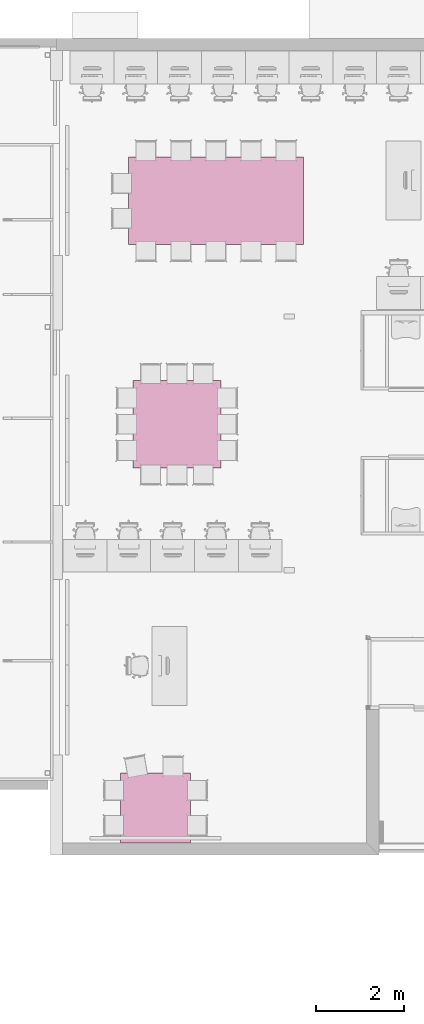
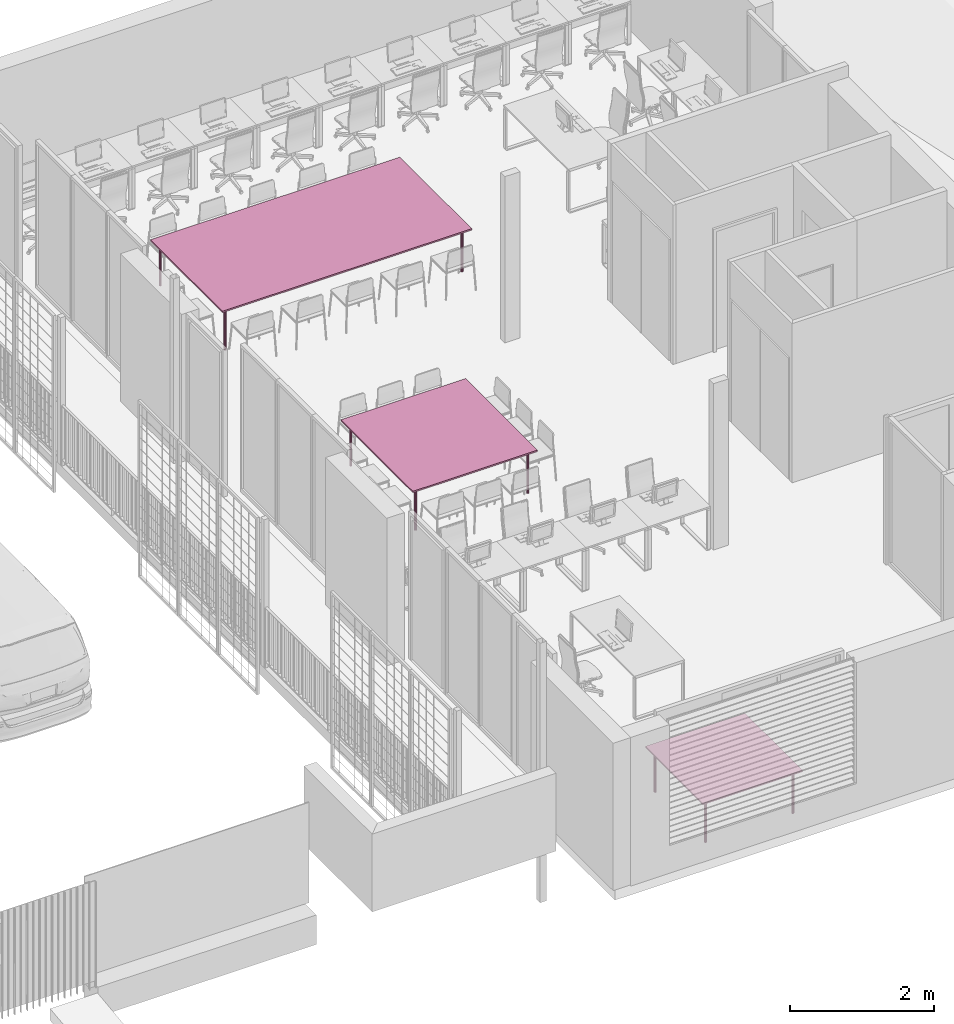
# One storey, part 34 of 51: 3 furnishings.
"""IFC2X3 building model written with IfcOpenShell, lengths in metres."""

from ifc_helpers import new_model, entity, si_unit, converted_unit, derived_unit, direction, frame, frame_2d, origin, origin_2d_with_axis, place, context, subcontext, project, spatial, polyline, rectangle, outline, extrude, source, transform, mapped, material, type_object, type_shapes, element, save


model = new_model("IFC2X3")

# Units and contexts
model_context = context("Model", 3, precision=1e-05, world=origin(), true_north=direction((6.123031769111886e-17, 1.0)))
body_context = subcontext(model_context, "Body", "Model", "MODEL_VIEW")
ifc_project = project(units=[si_unit("LENGTHUNIT", "METRE"), si_unit("AREAUNIT", "SQUARE_METRE"), si_unit("VOLUMEUNIT", "CUBIC_METRE"), converted_unit("PLANEANGLEUNIT", "DEGREE", entity("IfcRatioMeasure", 0.017453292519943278), si_unit("PLANEANGLEUNIT", "RADIAN"), dimensions=[0, 0, 0, 0, 0, 0, 0]), si_unit("MASSUNIT", "GRAM", prefix="KILO"), derived_unit("MASSDENSITYUNIT", [(si_unit("MASSUNIT", "GRAM", prefix="KILO"), 1), (si_unit("LENGTHUNIT", "METRE"), -3)]), derived_unit("MOMENTOFINERTIAUNIT", [(si_unit("LENGTHUNIT", "METRE"), 4)]), si_unit("TIMEUNIT", "SECOND"), si_unit("FREQUENCYUNIT", "HERTZ"), si_unit("THERMODYNAMICTEMPERATUREUNIT", "DEGREE_CELSIUS"), derived_unit("THERMALTRANSMITTANCEUNIT", [(si_unit("MASSUNIT", "GRAM", prefix="KILO"), 1), (si_unit("THERMODYNAMICTEMPERATUREUNIT", "KELVIN"), -1), (si_unit("TIMEUNIT", "SECOND"), -3)]), derived_unit("THERMALCONDUCTANCEUNIT", [(si_unit("MASSUNIT", "GRAM", prefix="KILO"), 1), (si_unit("LENGTHUNIT", "METRE"), 1), (si_unit("THERMODYNAMICTEMPERATUREUNIT", "KELVIN"), -1), (si_unit("TIMEUNIT", "SECOND"), -3)]), derived_unit("VOLUMETRICFLOWRATEUNIT", [(si_unit("LENGTHUNIT", "METRE"), 3), (si_unit("TIMEUNIT", "SECOND"), -1)]), derived_unit("MASSFLOWRATEUNIT", [(si_unit("MASSUNIT", "GRAM", prefix="KILO"), 1), (si_unit("TIMEUNIT", "SECOND"), -1)]), derived_unit("ROTATIONALFREQUENCYUNIT", [(si_unit("TIMEUNIT", "SECOND"), -1)]), si_unit("ELECTRICCURRENTUNIT", "AMPERE"), si_unit("ELECTRICVOLTAGEUNIT", "VOLT"), si_unit("POWERUNIT", "WATT"), si_unit("FORCEUNIT", "NEWTON", prefix="KILO"), si_unit("ILLUMINANCEUNIT", "LUX"), si_unit("LUMINOUSFLUXUNIT", "LUMEN"), si_unit("LUMINOUSINTENSITYUNIT", "CANDELA"), derived_unit("USERDEFINED", [(si_unit("MASSUNIT", "GRAM", prefix="KILO"), -1), (si_unit("LENGTHUNIT", "METRE"), -2), (si_unit("TIMEUNIT", "SECOND"), 3), (si_unit("LUMINOUSFLUXUNIT", "LUMEN"), 1)]), derived_unit("USERDEFINED", [(si_unit("MASSUNIT", "GRAM", prefix="KILO"), 1), (si_unit("LENGTHUNIT", "METRE"), 3), (si_unit("TIMEUNIT", "SECOND"), -3), (si_unit("ELECTRICCURRENTUNIT", "AMPERE"), -2)]), derived_unit("USERDEFINED", [(si_unit("LENGTHUNIT", "METRE"), 2), (si_unit("TIMEUNIT", "SECOND"), -2)]), derived_unit("SOUNDPOWERUNIT", [(si_unit("MASSUNIT", "GRAM", prefix="KILO"), 1), (si_unit("LENGTHUNIT", "METRE"), 2), (si_unit("TIMEUNIT", "SECOND"), -3)]), derived_unit("SOUNDPRESSUREUNIT", [(si_unit("MASSUNIT", "GRAM", prefix="KILO"), 1), (si_unit("LENGTHUNIT", "METRE"), -1), (si_unit("TIMEUNIT", "SECOND"), -2)]), derived_unit("LINEARVELOCITYUNIT", [(si_unit("LENGTHUNIT", "METRE"), 1), (si_unit("TIMEUNIT", "SECOND"), -1)]), si_unit("PRESSUREUNIT", "PASCAL"), derived_unit("USERDEFINED", [(si_unit("LENGTHUNIT", "METRE"), -2), (si_unit("MASSUNIT", "GRAM", prefix="KILO"), 1), (si_unit("TIMEUNIT", "SECOND"), -2)]), derived_unit("LINEARFORCEUNIT", [(si_unit("MASSUNIT", "GRAM", prefix="KILO"), 1), (si_unit("LENGTHUNIT", "METRE"), 1), (si_unit("TIMEUNIT", "SECOND"), -2), (si_unit("LENGTHUNIT", "METRE"), -1)]), derived_unit("PLANARFORCEUNIT", [(si_unit("MASSUNIT", "GRAM", prefix="KILO"), 1), (si_unit("LENGTHUNIT", "METRE"), 1), (si_unit("TIMEUNIT", "SECOND"), -2), (si_unit("LENGTHUNIT", "METRE"), -2)]), derived_unit("SPECIFICHEATCAPACITYUNIT", [(si_unit("LENGTHUNIT", "METRE"), 2), (si_unit("TIMEUNIT", "SECOND"), -2), (si_unit("THERMODYNAMICTEMPERATUREUNIT", "KELVIN"), -1)]), derived_unit("VAPORPERMEABILITYUNIT", [(si_unit("TIMEUNIT", "SECOND"), 1), (si_unit("LENGTHUNIT", "METRE"), -1)]), derived_unit("DYNAMICVISCOSITYUNIT", [(si_unit("MASSUNIT", "GRAM", prefix="KILO"), 1), (si_unit("LENGTHUNIT", "METRE"), -1), (si_unit("TIMEUNIT", "SECOND"), -1)]), derived_unit("THERMALEXPANSIONCOEFFICIENTUNIT", [(si_unit("THERMODYNAMICTEMPERATUREUNIT", "KELVIN"), -1)])], contexts=[model_context])

# Site, building, storey
site_placement = place(None, origin())
site = spatial("IfcSite", under=ifc_project, at=site_placement, Name="Default", CompositionType="ELEMENT")
building_placement = place(site_placement, origin())
building = spatial("IfcBuilding", under=site, at=building_placement, CompositionType="ELEMENT")
storey_placement = place(building_placement, frame((0.0, 0.0, 3.06)))
storey = spatial("IfcBuildingStorey", under=building, at=storey_placement, Name="ÉTAGE", CompositionType="ELEMENT", Elevation=3.06)

# Furnishings
ifc_material = material(Name="Peinture - Blanc brillant")
furnishing_element_type_1 = type_object("IfcFurnishingElementType", Name="Symb-0004", material=ifc_material)
shared_shape_1 = source(origin(), body_context, "Body", "SweptSolid", [
    extrude(rectangle(XDim=1.6, YDim=1.6, at=frame_2d((0.0, -8.659739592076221e-15), x_axis=(1.0, 0.0))), frame((143.80075227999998, 8.667209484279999, 4.994999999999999), z_axis=(0.0, 0.0, 1.0), x_axis=(0.0, 1.0, 0.0)), (0.0, 0.0, 1.0), 0.02499999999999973),
    extrude(outline(polyline([(-0.005176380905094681, -0.019318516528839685), (0.005176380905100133, -0.019318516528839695), (0.014142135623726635, -0.014142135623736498), (0.0193185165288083, -0.0051763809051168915), (0.01931851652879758, 0.005176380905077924), (0.01414213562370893, 0.014142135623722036), (0.005176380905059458, 0.019318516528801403), (-0.005176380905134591, 0.01931851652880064), (-0.014142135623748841, 0.014142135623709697), (-0.019318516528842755, 0.005176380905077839), (-0.019318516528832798, -0.005176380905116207), (-0.014142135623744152, -0.014142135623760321), (-0.005176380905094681, -0.019318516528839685)])), frame((143.10075227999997, 9.367209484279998, 4.27), z_axis=(0.0, 0.0, 1.0), x_axis=(-0.7071067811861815, 0.7071067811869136, 0.0)), (0.0, 0.0, 1.0), 0.7249999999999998),
    extrude(outline(polyline([(-0.00517638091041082, -0.019318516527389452), (0.005176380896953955, -0.019318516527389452), (0.01414213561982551, -0.014142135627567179), (0.019318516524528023, -0.005176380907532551), (0.01931851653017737, 0.005176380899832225), (0.014142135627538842, 0.014142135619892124), (0.0051763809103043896, 0.019318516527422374), (-0.005176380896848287, 0.019318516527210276), (-0.014142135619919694, 0.014142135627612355), (-0.019318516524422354, 0.005176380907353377), (-0.019318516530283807, -0.0051763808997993), (-0.014142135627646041, -0.014142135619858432), (-0.00517638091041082, -0.019318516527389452)])), frame((143.10075227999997, 7.9672094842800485, 4.27), z_axis=(0.0, 0.0, 1.0), x_axis=(-0.7071067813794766, 0.7071067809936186, 0.0)), (0.0, 0.0, 1.0), 0.7249999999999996),
    extrude(outline(polyline([(-0.005176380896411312, -0.01931851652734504), (0.005176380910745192, -0.019318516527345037), (0.01414213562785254, -0.014142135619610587), (0.019318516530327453, -0.005176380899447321), (0.019318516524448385, 0.005176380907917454), (0.01414213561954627, 0.014142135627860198), (0.005176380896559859, 0.01931851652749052), (-0.005176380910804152, 0.019318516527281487), (-0.014142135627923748, 0.014142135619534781), (-0.01931851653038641, 0.0051763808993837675), (-0.01931851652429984, -0.0051763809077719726), (-0.014142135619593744, -0.014142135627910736), (-0.005176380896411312, -0.01931851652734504)])), frame((144.50075227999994, 9.367209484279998, 4.27), z_axis=(0.0, 0.0, 1.0), x_axis=(-0.7071067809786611, 0.707106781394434, 0.0)), (0.0, 0.0, 1.0), 0.7249999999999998),
    extrude(outline(polyline([(-0.005176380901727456, -0.019318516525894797), (0.0051763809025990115, -0.019318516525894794), (0.014142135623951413, -0.014142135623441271), (0.019318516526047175, -0.005176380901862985), (0.01931851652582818, 0.005176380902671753), (0.014142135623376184, 0.01414213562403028), (0.005176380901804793, 0.019318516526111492), (-0.005176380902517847, 0.019318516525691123), (-0.014142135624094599, 0.01414213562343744), (-0.01931851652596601, 0.005176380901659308), (-0.019318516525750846, -0.00517638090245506), (-0.014142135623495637, -0.014142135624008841), (-0.005176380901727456, -0.019318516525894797)])), frame((144.50075227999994, 7.9672094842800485, 4.27), z_axis=(0.0, 0.0, 1.0), x_axis=(-0.7071067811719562, 0.7071067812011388, 0.0)), (0.0, 0.0, 1.0), 0.7249999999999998),
])
type_shapes(furnishing_element_type_1, [shared_shape_1])
furnishing_1_placement = place(storey_placement, frame((0.0, 0.0, -3.06)))
element("IfcFurnishingElement", 1, at=furnishing_1_placement, inside=storey, type_object=furnishing_element_type_1, material=ifc_material, Name="Symb-0004 517502:Symb-0004 517502", ObjectType="Symb-0004 517502:Symb-0004 517502", context=body_context, shape_type="MappedRepresentation", body=[
    mapped(shared_shape_1, transform((0.0, 0.0, 0.0), scale=1.0)),
])
furnishing_element_type_2 = type_object("IfcFurnishingElementType", Name="Symb-0004", material=ifc_material)
shared_shape_2 = source(origin(), body_context, "Body", "SweptSolid", [
    extrude(rectangle(XDim=2.0, YDim=4.000000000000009, at=frame_2d((-2.1649348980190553e-15, -8.770761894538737e-15), x_axis=(1.0, 0.0))), frame((145.18075227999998, 22.5272094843, 4.994999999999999), z_axis=(0.0, 0.0, 1.0), x_axis=(0.0, 1.0, 0.0)), (0.0, 0.0, 1.0), 0.02499999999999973),
    extrude(outline(polyline([(-0.005176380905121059, -0.019318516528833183), (0.005176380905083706, -0.019318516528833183), (0.0141421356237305, -0.014142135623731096), (0.019318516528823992, -0.005176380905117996), (0.019318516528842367, 0.005176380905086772), (0.014142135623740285, 0.014142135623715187), (0.005176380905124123, 0.019318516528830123), (-0.005176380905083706, 0.019318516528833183), (-0.014142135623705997, 0.014142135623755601), (-0.019318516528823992, 0.005176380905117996), (-0.019318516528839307, -0.005176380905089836), (-0.014142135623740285, -0.014142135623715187), (-0.005176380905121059, -0.019318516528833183)])), frame((143.28075228, 23.427209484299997, 4.27), z_axis=(0.0, 0.0, 1.0), x_axis=(-0.7071067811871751, 0.70710678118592, 0.0)), (0.0, 0.0, 1.0), 0.7249999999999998),
    extrude(outline(polyline([(-0.005176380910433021, -0.01931851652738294), (0.0051763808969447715, -0.01931851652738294), (0.014142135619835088, -0.014142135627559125), (0.01931851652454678, -0.005176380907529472), (0.019318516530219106, 0.005176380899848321), (0.014142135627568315, 0.01414213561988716), (0.0051763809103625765, 0.019318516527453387), (-0.005176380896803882, 0.01931851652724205), (-0.01414213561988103, 0.014142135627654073), (-0.019318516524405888, 0.005176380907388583), (-0.019318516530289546, -0.005176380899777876), (-0.014142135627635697, -0.014142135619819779), (-0.005176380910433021, -0.01931851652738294)])), frame((143.28075228, 21.627209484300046, 4.27), z_axis=(0.0, 0.0, 1.0), x_axis=(-0.7071067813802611, 0.707106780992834, 0.0)), (0.0, 0.0, 1.0), 0.7249999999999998),
    extrude(outline(polyline([(-0.005176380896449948, -0.019318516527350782), (0.005176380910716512, -0.019318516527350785), (0.014142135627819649, -0.014142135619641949), (0.019318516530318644, -0.00517638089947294), (0.019318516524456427, 0.005176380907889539), (0.01414213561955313, 0.014142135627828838), (0.005176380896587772, 0.019318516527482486), (-0.005176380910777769, 0.01931851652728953), (-0.014142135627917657, 0.01414213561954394), (-0.019318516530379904, 0.005176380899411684), (-0.0193185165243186, -0.005176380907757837), (-0.014142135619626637, -0.014142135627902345), (-0.005176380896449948, -0.019318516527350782)])), frame((147.08075227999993, 23.427209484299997, 4.27), z_axis=(0.0, 0.0, 1.0), x_axis=(-0.7071067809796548, 0.7071067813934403, 0.0)), (0.0, 0.0, 1.0), 0.7249999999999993),
    extrude(outline(polyline([(-0.005176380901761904, -0.01931851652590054), (0.005176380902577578, -0.019318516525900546), (0.01414213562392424, -0.014142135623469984), (0.01931851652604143, -0.00517638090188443), (0.01931851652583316, 0.005176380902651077), (0.014142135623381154, 0.014142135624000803), (0.005176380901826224, 0.01931851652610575), (-0.005176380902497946, 0.0193185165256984), (-0.01414213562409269, 0.014142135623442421), (-0.019318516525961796, 0.005176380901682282), (-0.01931851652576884, -0.0051763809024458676), (-0.014142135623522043, -0.014142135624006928), (-0.005176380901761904, -0.01931851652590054)])), frame((147.08075227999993, 21.627209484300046, 4.27), z_axis=(0.0, 0.0, 1.0), x_axis=(-0.7071067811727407, 0.7071067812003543, 0.0)), (0.0, 0.0, 1.0), 0.7249999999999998),
])
type_shapes(furnishing_element_type_2, [shared_shape_2])
furnishing_2_placement = place(storey_placement, frame((0.0, 0.0, -3.06)))
element("IfcFurnishingElement", 2, at=furnishing_2_placement, inside=storey, type_object=furnishing_element_type_2, material=ifc_material, Name="Symb-0004 753477:Symb-0004 753477", ObjectType="Symb-0004 753477:Symb-0004 753477", context=body_context, shape_type="MappedRepresentation", body=[
    mapped(shared_shape_2, transform((0.0, 0.0, 0.0), scale=1.0)),
])
furnishing_element_type_3 = type_object("IfcFurnishingElementType", Name="Symb-0004", material=ifc_material)
shared_shape_3 = source(origin(), body_context, "Body", "SweptSolid", [
    extrude(rectangle(XDim=2.0, YDim=1.9999999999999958, at=origin_2d_with_axis()), frame((144.290752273, 17.427209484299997, 4.994999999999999), z_axis=(0.0, 0.0, 1.0), x_axis=(0.0, 1.0, 0.0)), (0.0, 0.0, 1.0), 0.02499999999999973),
    extrude(outline(polyline([(-0.005176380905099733, -0.019318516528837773), (0.005176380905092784, -0.019318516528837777), (0.014142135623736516, -0.014142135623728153), (0.019318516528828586, -0.005176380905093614), (0.019318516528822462, 0.005176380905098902), (0.014142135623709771, 0.014142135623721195), (0.005176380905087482, 0.019318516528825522), (-0.005176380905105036, 0.01931851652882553), (-0.014142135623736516, 0.014142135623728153), (-0.01931851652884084, 0.005176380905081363), (-0.019318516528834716, -0.005176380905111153), (-0.014142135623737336, -0.014142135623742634), (-0.005176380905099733, -0.019318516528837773)])), frame((143.390752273, 18.3272094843, 4.27), z_axis=(0.0, 0.0, 1.0), x_axis=(-0.7071067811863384, 0.7071067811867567, 0.0)), (0.0, 0.0, 1.0), 0.7249999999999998),
    extrude(outline(polyline([(-0.005176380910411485, -0.01931851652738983), (0.005176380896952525, -0.019318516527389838), (0.014142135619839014, -0.014142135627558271), (0.019318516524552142, -0.0051763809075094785), (0.019318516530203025, 0.005176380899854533), (0.014142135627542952, 0.014142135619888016), (0.005176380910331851, 0.01931851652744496), (-0.005176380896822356, 0.019318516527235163), (-0.014142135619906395, 0.014142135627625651), (-0.01931851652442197, 0.0051763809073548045), (-0.019318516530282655, -0.005176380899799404), (-0.014142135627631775, -0.014142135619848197), (-0.005176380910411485, -0.01931851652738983)])), frame((143.390752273, 16.527209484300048, 4.27), z_axis=(0.0, 0.0, 1.0), x_axis=(-0.7071067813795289, 0.7071067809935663, 0.0)), (0.0, 0.0, 1.0), 0.7249999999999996),
    extrude(outline(polyline([(-0.005176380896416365, -0.019318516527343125), (0.005176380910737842, -0.019318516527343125), (0.014142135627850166, -0.014142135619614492), (0.019318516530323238, -0.005176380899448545), (0.01931851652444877, 0.005176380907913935), (0.014142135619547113, 0.014142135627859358), (0.005176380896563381, 0.019318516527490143), (-0.005176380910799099, 0.01931851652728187), (-0.014142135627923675, 0.014142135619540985), (-0.019318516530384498, 0.005176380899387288), (-0.019318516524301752, -0.005176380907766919), (-0.01414213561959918, -0.014142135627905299), (-0.005176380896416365, -0.019318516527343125)])), frame((145.19075227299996, 18.3272094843, 4.27), z_axis=(0.0, 0.0, 1.0), x_axis=(-0.7071067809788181, 0.7071067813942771, 0.0)), (0.0, 0.0, 1.0), 0.7249999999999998),
    extrude(outline(polyline([(-0.005176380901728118, -0.01931851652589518), (0.005176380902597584, -0.019318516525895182), (0.014142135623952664, -0.014142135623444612), (0.01931851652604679, -0.005176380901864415), (0.019318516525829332, 0.005176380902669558), (0.014142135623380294, 0.014142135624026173), (0.005176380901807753, 0.01931851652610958), (-0.005176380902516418, 0.0193185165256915), (-0.014142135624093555, 0.014142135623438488), (-0.019318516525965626, 0.005176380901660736), (-0.019318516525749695, -0.005176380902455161), (-0.014142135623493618, -0.014142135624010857), (-0.005176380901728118, -0.01931851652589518)])), frame((145.19075227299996, 16.527209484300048, 4.27), z_axis=(0.0, 0.0, 1.0), x_axis=(-0.7071067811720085, 0.7071067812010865, 0.0)), (0.0, 0.0, 1.0), 0.7249999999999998),
])
type_shapes(furnishing_element_type_3, [shared_shape_3])
furnishing_3_placement = place(storey_placement, frame((0.0, 0.0, -3.06)))
element("IfcFurnishingElement", 3, at=furnishing_3_placement, inside=storey, type_object=furnishing_element_type_3, material=ifc_material, Name="Symb-0004 769281:Symb-0004 769281", ObjectType="Symb-0004 769281:Symb-0004 769281", context=body_context, shape_type="MappedRepresentation", body=[
    mapped(shared_shape_3, transform((0.0, 0.0, 0.0), scale=1.0)),
])

save(model, "model.ifc")
